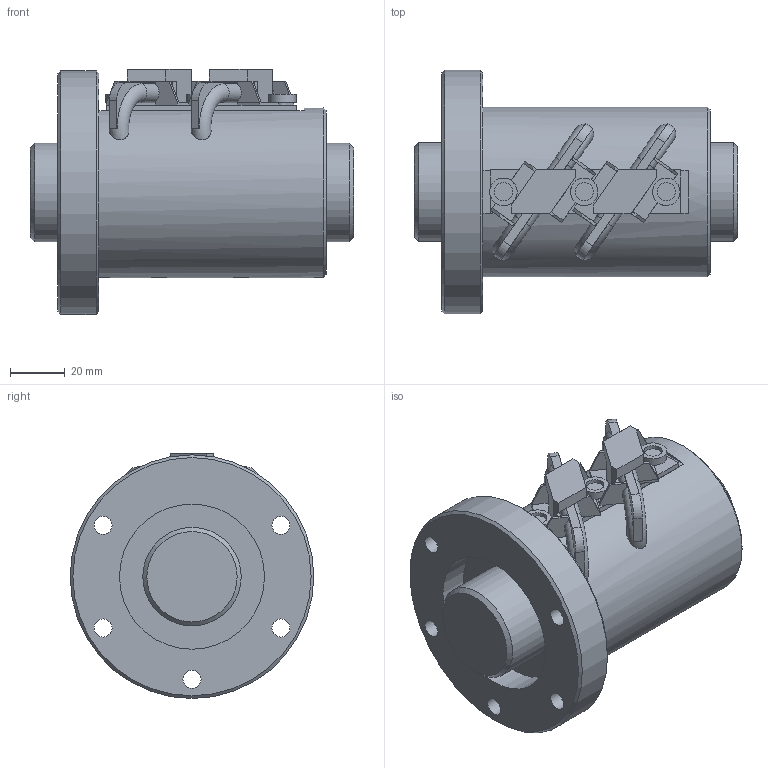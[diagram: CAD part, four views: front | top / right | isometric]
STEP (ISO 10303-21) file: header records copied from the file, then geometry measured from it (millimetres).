
FILE_DESCRIPTION(/* description */ ('STEP AP203'),/* implementation_level */ '2;1');
FILE_NAME(/* name */ 'HBN3610-5RRG2+118LC0(0G200)_rev',/* time_stamp */ '2024-07-04T08:17:21+02:00',/* author */ ('License CC BY-ND 4.0'),/* organization */ ('CADENAS'),/* preprocessor_version */ 'ST-DEVELOPER v19.3',/* originating_system */ 'PARTsolutions',/* authorisation */ ' ');
FILE_SCHEMA (('CONFIG_CONTROL_DESIGN'));
Length unit declared in the file: millimetre
Products named in the file (3): HBN3610-5RRG2+118LC0(0G200)_rev; HBN3610-5 RRG1+118L C0(01000) Shaft; HBN3610-5 RRG1+108L C0(0100) Nut
Assembly tree (2 placements, depth 2):
  HBN3610-5RRG2+118LC0(0G200)_rev
    HBN3610-5 RRG1+118L C0(01000) Shaft
    HBN3610-5 RRG1+108L C0(0100) Nut
Bounding box: 118 x 89 x 89.5 mm (x, y, z)
Volume: 347992.1 mm3; surface area: 67097.8 mm2
Topology: 2 solids, 2 shells, 178 faces, 504 edges, 320 vertices
Faces by surface type: plane 136, cylinder 29, cone 9, torus 4
Full cylindrical faces by diameter (mm): 4.917 x2, 6.6 x5, 6.667 x3, 10 x3, 36 x2, 53 x2, 62 x1, 89 x1
Entity records: 5682 total; most frequent: CARTESIAN_POINT 1089, ORIENTED_EDGE 920, DIRECTION 897, EDGE_CURVE 460, LINE 349, VECTOR 349, VERTEX_POINT 310, AXIS2_PLACEMENT_3D 274
